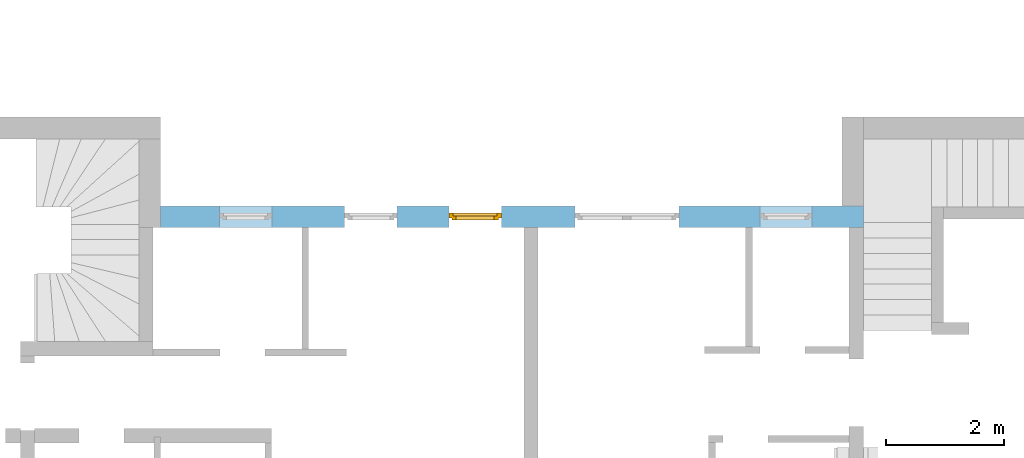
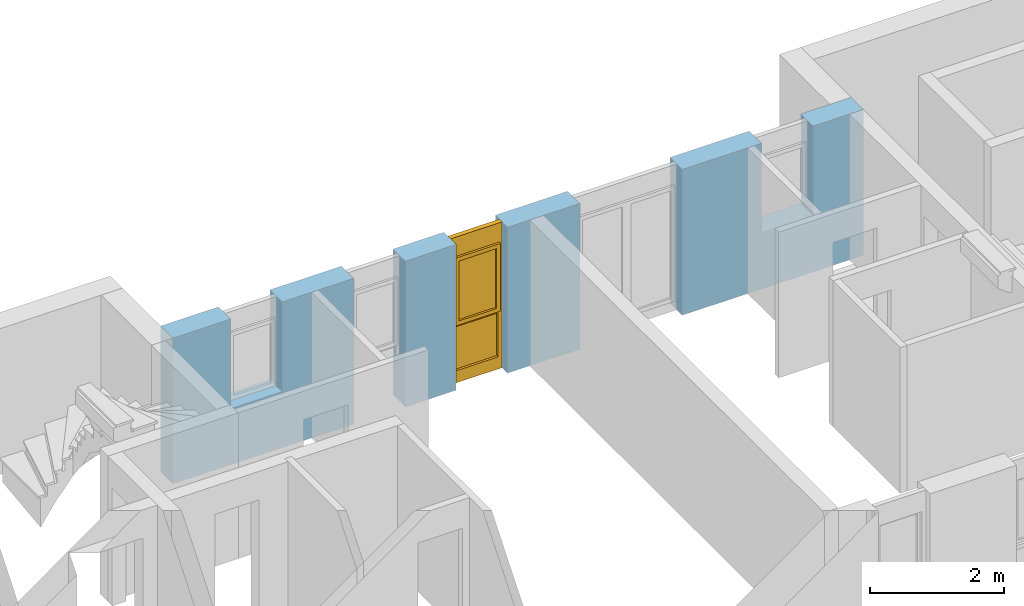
# One storey, part 34 of 42: 1 window, 5 openings, plus 1 element that does not belong to this part.
"""IFC2X3 building model written with IfcOpenShell, lengths in millimetres."""

from ifc_helpers import new_model, entity, si_unit, converted_unit, frame, frame_2d, origin, origin_with_axes, place, context, subcontext, project, spatial, rectangle, extrude, faceted_brep, material, layer, layer_set, layer_usage, type_object, element, fill, save


model = new_model("IFC2X3")

# Units and contexts
model_context = context("Model", 3, precision=1e-05, world=origin())
body_context = subcontext(model_context, "Body", "Model", "MODEL_VIEW")
ifc_project = project(units=[si_unit("LENGTHUNIT", "METRE", prefix="MILLI"), converted_unit("PLANEANGLEUNIT", "DEGREE", entity("IfcPlaneAngleMeasure", 0.0174532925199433), si_unit("PLANEANGLEUNIT", "RADIAN"), dimensions=[0, 0, 0, 0, 0, 0, 0]), si_unit("AREAUNIT", "SQUARE_METRE"), si_unit("VOLUMEUNIT", "CUBIC_METRE")], contexts=[model_context])

# Building, storey
building_placement = place(None, origin())
building = spatial("IfcBuilding", under=ifc_project, at=building_placement, Name="Gebäude", CompositionType="ELEMENT")
storey_placement = place(building_placement, frame((0.0, 0.0, 2730.0), z_axis=(0.0, 0.0, 1.0), x_axis=(1.0, 0.0, 0.0)))
storey = spatial("IfcBuildingStorey", under=building, at=storey_placement, Name="OG.- Grundriss", CompositionType="ELEMENT", Elevation=2730.0)

# Wall, openings, window
ifc_material_1 = material(Name="Poroton")
ifc_layer = layer(ifc_material_1, 365.0000000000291)
ifc_layer_set = layer_set([ifc_layer])
ifc_layer_usage = layer_usage(ifc_layer_set, "AXIS2", "POSITIVE", 0.0)
wall_placement = place(storey_placement, frame((176237.7928067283, 134774.8877324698, 0.0), z_axis=(0.0, 0.0, 1.0), x_axis=(-1.0, 0.0, 0.0)))
wall = element("IfcWallStandardCase", 1, at=wall_placement, inside=storey, material=ifc_layer_usage, Name="<Unnamed Element>", context=body_context, shape_type="SweptSolid", body=[
    extrude(rectangle(XDim=11869.99999999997, YDim=365.0000000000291, at=frame_2d((5934.999999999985, 182.5000000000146), x_axis=(1.0, 0.0))), origin_with_axes(), (0.0, 0.0, 1.0), 2650.0),
])
opening_1_placement = place(wall_placement, frame((7875.000000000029, 0.0, 0.0), z_axis=(0.0, 1.0, 0.0), x_axis=(0.0, 0.0, 1.0)))
element("IfcOpeningElement", 2, at=opening_1_placement, cuts=wall, Name="Fensteröffnung", ObjectType="Opening", context=body_context, shape_type="SweptSolid", body=[
    extrude(rectangle(XDim=2650.0, YDim=885.0, at=frame_2d((1325.0, 442.5), x_axis=(1.0, 0.0))), origin_with_axes(), (0.0, 0.0, 1.0), 365.0000000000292),
])
opening_2_placement = place(wall_placement, frame((6115.000000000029, 0.0, 0.0), z_axis=(0.0, 1.0, 0.0), x_axis=(0.0, 0.0, 1.0)))
opening_2 = element("IfcOpeningElement", 3, at=opening_2_placement, cuts=wall, Name="Fensteröffnung", ObjectType="Opening", context=body_context, shape_type="SweptSolid", body=[
    extrude(rectangle(XDim=2650.0, YDim=885.0, at=frame_2d((1325.0, 442.5), x_axis=(1.0, 0.0))), origin_with_axes(), (0.0, 0.0, 1.0), 365.0000000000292),
])
opening_3_placement = place(wall_placement, frame((9990.00000000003, 0.0, 1020.0), z_axis=(0.0, 1.0, 0.0), x_axis=(0.0, 0.0, 1.0)))
element("IfcOpeningElement", 4, at=opening_3_placement, cuts=wall, Name="Fensteröffnung", ObjectType="Opening", context=body_context, shape_type="SweptSolid", body=[
    extrude(rectangle(XDim=1630.0, YDim=885.0, at=frame_2d((815.0, 442.5), x_axis=(1.0, 0.0))), origin_with_axes(), (0.0, 0.0, 1.0), 365.0000000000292),
])
opening_4_placement = place(wall_placement, frame((3115.000000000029, 0.0, 0.0), z_axis=(0.0, 1.0, 0.0), x_axis=(0.0, 0.0, 1.0)))
element("IfcOpeningElement", 5, at=opening_4_placement, cuts=wall, Name="Fensteröffnung", ObjectType="Opening", context=body_context, shape_type="SweptSolid", body=[
    extrude(rectangle(XDim=2650.0, YDim=1760.0, at=frame_2d((1325.0, 880.0), x_axis=(1.0, 0.0))), origin_with_axes(), (0.0, 0.0, 1.0), 365.0000000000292),
])
opening_5_placement = place(wall_placement, frame((865.0000000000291, 0.0, 1020.0), z_axis=(0.0, 1.0, 0.0), x_axis=(0.0, 0.0, 1.0)))
element("IfcOpeningElement", 6, at=opening_5_placement, cuts=wall, Name="Fensteröffnung", ObjectType="Opening", context=body_context, shape_type="SweptSolid", body=[
    extrude(rectangle(XDim=1630.0, YDim=885.0, at=frame_2d((815.0, 442.5), x_axis=(1.0, 0.0))), origin_with_axes(), (0.0, 0.0, 1.0), 365.0000000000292),
])
ifc_material_2 = material()
window_style = type_object("IfcWindowStyle", Name="Fenster", ConstructionType="NOTDEFINED", OperationType="USERDEFINED", ParameterTakesPrecedence=False, Sizeable=False)
window_placement = place(opening_2_placement, frame((0.0, 0.0, 0.0), z_axis=(1.0, 0.0, 0.0), x_axis=(0.0, 1.0, 0.0)))
window = element("IfcWindow", 7, at=window_placement, inside=storey, type_object=window_style, material=ifc_material_2, Name="Fenster", OverallHeight=2650.0, OverallWidth=885.0, context=body_context, shape_type="Brep", body=[
    faceted_brep([(9.797174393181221e-15, 200.0000000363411, 2650.0), (9.797174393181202e-15, 200.000000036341, -2.449293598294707e-15), (69.99999999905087, 200.000000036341, -2.449293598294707e-15), (69.99999999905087, 200.0000000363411, 2650.0), (0.0, 120.0000000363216, 2.449293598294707e-15), (1.914360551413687e-29, 120.0000000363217, 2650.0), (69.99999999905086, 120.0000000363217, 2650.0), (69.99999999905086, 120.0000000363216, 2.449293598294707e-15), (9.797174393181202e-15, 200.000000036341, -2.449293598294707e-15), (9.797174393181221e-15, 200.0000000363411, 2650.0), (1.914360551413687e-29, 120.0000000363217, 2650.0), (0.0, 120.0000000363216, 2.449293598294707e-15), (69.99999999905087, 200.000000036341, -2.449293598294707e-15), (9.797174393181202e-15, 200.000000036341, -2.449293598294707e-15), (0.0, 120.0000000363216, 2.449293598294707e-15), (69.99999999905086, 120.0000000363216, 2.449293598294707e-15), (69.99999999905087, 200.0000000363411, 2650.0), (69.99999999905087, 200.000000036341, -2.449293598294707e-15), (69.99999999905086, 120.0000000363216, 2.449293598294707e-15), (69.99999999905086, 120.0000000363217, 2650.0), (9.797174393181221e-15, 200.0000000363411, 2650.0), (69.99999999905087, 200.0000000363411, 2650.0), (69.99999999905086, 120.0000000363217, 2650.0), (1.914360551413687e-29, 120.0000000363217, 2650.0)], [[[0, 1, 2, 3]], [[4, 5, 6, 7]], [[8, 9, 10, 11]], [[12, 13, 14, 15]], [[16, 17, 18, 19]], [[20, 21, 22, 23]]], orient=[[False], [False], [False], [False], [False], [False]]),
    faceted_brep([(815.0000000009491, 200.000000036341, 2650.0), (815.0000000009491, 200.0000000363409, -2.449293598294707e-15), (884.9999999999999, 200.0000000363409, -2.449293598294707e-15), (884.9999999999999, 200.000000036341, 2650.0), (815.0000000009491, 120.0000000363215, 2.449293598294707e-15), (815.0000000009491, 120.0000000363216, 2650.0), (884.9999999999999, 120.0000000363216, 2650.0), (884.9999999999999, 120.0000000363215, 2.449293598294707e-15), (815.0000000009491, 200.0000000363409, -2.449293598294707e-15), (815.0000000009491, 200.000000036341, 2650.0), (815.0000000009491, 120.0000000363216, 2650.0), (815.0000000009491, 120.0000000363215, 2.449293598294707e-15), (884.9999999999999, 200.0000000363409, -2.449293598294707e-15), (815.0000000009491, 200.0000000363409, -2.449293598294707e-15), (815.0000000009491, 120.0000000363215, 2.449293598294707e-15), (884.9999999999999, 120.0000000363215, 2.449293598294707e-15), (884.9999999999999, 200.000000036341, 2650.0), (884.9999999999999, 200.0000000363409, -2.449293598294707e-15), (884.9999999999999, 120.0000000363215, 2.449293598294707e-15), (884.9999999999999, 120.0000000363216, 2650.0), (815.0000000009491, 200.000000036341, 2650.0), (884.9999999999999, 200.000000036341, 2650.0), (884.9999999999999, 120.0000000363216, 2650.0), (815.0000000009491, 120.0000000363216, 2650.0)], [[[0, 1, 2, 3]], [[4, 5, 6, 7]], [[8, 9, 10, 11]], [[12, 13, 14, 15]], [[16, 17, 18, 19]], [[20, 21, 22, 23]]], orient=[[False], [False], [False], [False], [False], [False]]),
    faceted_brep([(69.99999999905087, 200.000000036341, 220.0), (69.99999999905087, 200.000000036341, -2.449293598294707e-15), (815.0000000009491, 200.0000000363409, -2.449293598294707e-15), (815.0000000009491, 200.0000000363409, 220.0), (69.99999999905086, 120.0000000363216, 2.449293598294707e-15), (69.99999999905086, 120.0000000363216, 220.0), (815.0000000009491, 120.0000000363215, 220.0), (815.0000000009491, 120.0000000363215, 2.449293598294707e-15), (69.99999999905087, 200.000000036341, -2.449293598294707e-15), (69.99999999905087, 200.000000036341, 220.0), (69.99999999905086, 120.0000000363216, 220.0), (69.99999999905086, 120.0000000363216, 2.449293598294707e-15), (815.0000000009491, 200.0000000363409, -2.449293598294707e-15), (69.99999999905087, 200.000000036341, -2.449293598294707e-15), (69.99999999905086, 120.0000000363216, 2.449293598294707e-15), (815.0000000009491, 120.0000000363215, 2.449293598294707e-15), (815.0000000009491, 200.0000000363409, 220.0), (815.0000000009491, 200.0000000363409, -2.449293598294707e-15), (815.0000000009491, 120.0000000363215, 2.449293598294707e-15), (815.0000000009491, 120.0000000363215, 220.0), (69.99999999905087, 200.000000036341, 220.0), (815.0000000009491, 200.0000000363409, 220.0), (815.0000000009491, 120.0000000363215, 220.0), (69.99999999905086, 120.0000000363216, 220.0)], [[[0, 1, 2, 3]], [[4, 5, 6, 7]], [[8, 9, 10, 11]], [[12, 13, 14, 15]], [[16, 17, 18, 19]], [[20, 21, 22, 23]]], orient=[[False], [False], [False], [False], [False], [False]]),
    faceted_brep([(69.99999999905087, 200.0000000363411, 2650.0), (69.99999999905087, 200.0000000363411, 2280.0), (815.0000000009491, 200.000000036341, 2280.0), (815.0000000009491, 200.0000000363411, 2650.0), (69.99999999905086, 120.0000000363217, 2280.0), (69.99999999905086, 120.0000000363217, 2650.0), (815.0000000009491, 120.0000000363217, 2650.0), (815.0000000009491, 120.0000000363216, 2280.0), (69.99999999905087, 200.0000000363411, 2280.0), (69.99999999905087, 200.0000000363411, 2650.0), (69.99999999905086, 120.0000000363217, 2650.0), (69.99999999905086, 120.0000000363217, 2280.0), (815.0000000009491, 200.000000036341, 2280.0), (69.99999999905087, 200.0000000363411, 2280.0), (69.99999999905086, 120.0000000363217, 2280.0), (815.0000000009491, 120.0000000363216, 2280.0), (815.0000000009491, 200.0000000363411, 2650.0), (815.0000000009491, 200.000000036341, 2280.0), (815.0000000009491, 120.0000000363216, 2280.0), (815.0000000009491, 120.0000000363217, 2650.0), (69.99999999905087, 200.0000000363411, 2650.0), (815.0000000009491, 200.0000000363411, 2650.0), (815.0000000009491, 120.0000000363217, 2650.0), (69.99999999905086, 120.0000000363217, 2650.0)], [[[0, 1, 2, 3]], [[4, 5, 6, 7]], [[8, 9, 10, 11]], [[12, 13, 14, 15]], [[16, 17, 18, 19]], [[20, 21, 22, 23]]], orient=[[False], [False], [False], [False], [False], [False]]),
    faceted_brep([(69.99999999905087, 200.000000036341, 1090.0), (69.99999999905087, 200.000000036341, 1020.0), (815.0000000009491, 200.0000000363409, 1020.0), (815.0000000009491, 200.0000000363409, 1090.0), (69.99999999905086, 120.0000000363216, 1020.0), (69.99999999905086, 120.0000000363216, 1090.0), (815.0000000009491, 120.0000000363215, 1090.0), (815.0000000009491, 120.0000000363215, 1020.0), (69.99999999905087, 200.000000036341, 1020.0), (69.99999999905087, 200.000000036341, 1090.0), (69.99999999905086, 120.0000000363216, 1090.0), (69.99999999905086, 120.0000000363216, 1020.0), (815.0000000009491, 200.0000000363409, 1020.0), (69.99999999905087, 200.000000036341, 1020.0), (69.99999999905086, 120.0000000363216, 1020.0), (815.0000000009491, 120.0000000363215, 1020.0), (815.0000000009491, 200.0000000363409, 1090.0), (815.0000000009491, 200.0000000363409, 1020.0), (815.0000000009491, 120.0000000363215, 1020.0), (815.0000000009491, 120.0000000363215, 1090.0), (69.99999999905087, 200.000000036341, 1090.0), (815.0000000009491, 200.0000000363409, 1090.0), (815.0000000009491, 120.0000000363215, 1090.0), (69.99999999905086, 120.0000000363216, 1090.0)], [[[0, 1, 2, 3]], [[4, 5, 6, 7]], [[8, 9, 10, 11]], [[12, 13, 14, 15]], [[16, 17, 18, 19]], [[20, 21, 22, 23]]], orient=[[False], [False], [False], [False], [False], [False]]),
    faceted_brep([(69.99999999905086, 160.0000000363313, 220.0), (815.0000000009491, 160.0000000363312, 220.0), (815.0000000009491, 160.0000000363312, 1020.0), (69.99999999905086, 160.0000000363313, 1020.0), (69.99999999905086, 159.0000000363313, 220.0), (69.99999999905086, 159.0000000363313, 1020.0), (815.0000000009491, 159.0000000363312, 1020.0), (815.0000000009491, 159.0000000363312, 220.0), (69.99999999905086, 160.0000000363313, 220.0), (69.99999999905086, 159.0000000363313, 220.0), (815.0000000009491, 159.0000000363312, 220.0), (815.0000000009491, 160.0000000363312, 220.0), (815.0000000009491, 160.0000000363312, 220.0), (815.0000000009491, 159.0000000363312, 220.0), (815.0000000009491, 159.0000000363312, 1020.0), (815.0000000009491, 160.0000000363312, 1020.0), (815.0000000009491, 160.0000000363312, 1020.0), (815.0000000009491, 159.0000000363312, 1020.0), (69.99999999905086, 159.0000000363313, 1020.0), (69.99999999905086, 160.0000000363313, 1020.0), (69.99999999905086, 160.0000000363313, 1020.0), (69.99999999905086, 159.0000000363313, 1020.0), (69.99999999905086, 159.0000000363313, 220.0), (69.99999999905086, 160.0000000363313, 220.0)], [[[0, 1, 2, 3]], [[4, 5, 6, 7]], [[8, 9, 10, 11]], [[12, 13, 14, 15]], [[16, 17, 18, 19]], [[20, 21, 22, 23]]], orient=[[False], [False], [False], [False], [False], [False]]),
    faceted_brep([(49.99999999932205, 240.0000000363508, 2300.0), (49.99999999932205, 240.0000000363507, 1070.0), (119.9999999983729, 240.0000000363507, 1070.0), (119.9999999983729, 240.0000000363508, 2300.0), (49.99999999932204, 170.0000000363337, 1070.0), (49.99999999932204, 170.0000000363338, 2300.0), (119.9999999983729, 170.0000000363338, 2300.0), (119.9999999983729, 170.0000000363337, 1070.0), (49.99999999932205, 240.0000000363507, 1070.0), (49.99999999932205, 240.0000000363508, 2300.0), (49.99999999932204, 170.0000000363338, 2300.0), (49.99999999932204, 170.0000000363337, 1070.0), (119.9999999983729, 240.0000000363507, 1070.0), (49.99999999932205, 240.0000000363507, 1070.0), (49.99999999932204, 170.0000000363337, 1070.0), (119.9999999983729, 170.0000000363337, 1070.0), (119.9999999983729, 240.0000000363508, 2300.0), (119.9999999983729, 240.0000000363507, 1070.0), (119.9999999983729, 170.0000000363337, 1070.0), (119.9999999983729, 170.0000000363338, 2300.0), (49.99999999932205, 240.0000000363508, 2300.0), (119.9999999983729, 240.0000000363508, 2300.0), (119.9999999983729, 170.0000000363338, 2300.0), (49.99999999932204, 170.0000000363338, 2300.0)], [[[0, 1, 2, 3]], [[4, 5, 6, 7]], [[8, 9, 10, 11]], [[12, 13, 14, 15]], [[16, 17, 18, 19]], [[20, 21, 22, 23]]], orient=[[False], [False], [False], [False], [False], [False]]),
    faceted_brep([(765.000000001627, 240.0000000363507, 2300.0), (765.000000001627, 240.0000000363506, 1070.0), (835.0000000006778, 240.0000000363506, 1070.0), (835.0000000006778, 240.0000000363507, 2300.0), (765.000000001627, 170.0000000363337, 1070.0), (765.000000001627, 170.0000000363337, 2300.0), (835.0000000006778, 170.0000000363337, 2300.0), (835.0000000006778, 170.0000000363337, 1070.0), (765.000000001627, 240.0000000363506, 1070.0), (765.000000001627, 240.0000000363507, 2300.0), (765.000000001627, 170.0000000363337, 2300.0), (765.000000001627, 170.0000000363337, 1070.0), (835.0000000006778, 240.0000000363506, 1070.0), (765.000000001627, 240.0000000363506, 1070.0), (765.000000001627, 170.0000000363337, 1070.0), (835.0000000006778, 170.0000000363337, 1070.0), (835.0000000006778, 240.0000000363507, 2300.0), (835.0000000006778, 240.0000000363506, 1070.0), (835.0000000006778, 170.0000000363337, 1070.0), (835.0000000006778, 170.0000000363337, 2300.0), (765.000000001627, 240.0000000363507, 2300.0), (835.0000000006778, 240.0000000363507, 2300.0), (835.0000000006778, 170.0000000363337, 2300.0), (765.000000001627, 170.0000000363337, 2300.0)], [[[0, 1, 2, 3]], [[4, 5, 6, 7]], [[8, 9, 10, 11]], [[12, 13, 14, 15]], [[16, 17, 18, 19]], [[20, 21, 22, 23]]], orient=[[False], [False], [False], [False], [False], [False]]),
    faceted_brep([(119.9999999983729, 240.0000000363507, 1140.0), (119.9999999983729, 240.0000000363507, 1070.0), (765.000000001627, 240.0000000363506, 1070.0), (765.000000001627, 240.0000000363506, 1140.0), (119.9999999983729, 170.0000000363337, 1070.0), (119.9999999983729, 170.0000000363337, 1140.0), (765.000000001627, 170.0000000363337, 1140.0), (765.000000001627, 170.0000000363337, 1070.0), (119.9999999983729, 240.0000000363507, 1070.0), (119.9999999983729, 240.0000000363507, 1140.0), (119.9999999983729, 170.0000000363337, 1140.0), (119.9999999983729, 170.0000000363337, 1070.0), (765.000000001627, 240.0000000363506, 1070.0), (119.9999999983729, 240.0000000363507, 1070.0), (119.9999999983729, 170.0000000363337, 1070.0), (765.000000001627, 170.0000000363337, 1070.0), (765.000000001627, 240.0000000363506, 1140.0), (765.000000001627, 240.0000000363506, 1070.0), (765.000000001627, 170.0000000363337, 1070.0), (765.000000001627, 170.0000000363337, 1140.0), (119.9999999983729, 240.0000000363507, 1140.0), (765.000000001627, 240.0000000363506, 1140.0), (765.000000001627, 170.0000000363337, 1140.0), (119.9999999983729, 170.0000000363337, 1140.0)], [[[0, 1, 2, 3]], [[4, 5, 6, 7]], [[8, 9, 10, 11]], [[12, 13, 14, 15]], [[16, 17, 18, 19]], [[20, 21, 22, 23]]], orient=[[False], [False], [False], [False], [False], [False]]),
    faceted_brep([(119.9999999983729, 240.0000000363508, 2300.0), (119.9999999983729, 240.0000000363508, 2230.0), (765.000000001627, 240.0000000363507, 2230.0), (765.000000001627, 240.0000000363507, 2300.0), (119.9999999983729, 170.0000000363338, 2230.0), (119.9999999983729, 170.0000000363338, 2300.0), (765.000000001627, 170.0000000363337, 2300.0), (765.000000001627, 170.0000000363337, 2230.0), (119.9999999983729, 240.0000000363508, 2230.0), (119.9999999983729, 240.0000000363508, 2300.0), (119.9999999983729, 170.0000000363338, 2300.0), (119.9999999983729, 170.0000000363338, 2230.0), (765.000000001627, 240.0000000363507, 2230.0), (119.9999999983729, 240.0000000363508, 2230.0), (119.9999999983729, 170.0000000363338, 2230.0), (765.000000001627, 170.0000000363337, 2230.0), (765.000000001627, 240.0000000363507, 2300.0), (765.000000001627, 240.0000000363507, 2230.0), (765.000000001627, 170.0000000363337, 2230.0), (765.000000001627, 170.0000000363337, 2300.0), (119.9999999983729, 240.0000000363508, 2300.0), (765.000000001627, 240.0000000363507, 2300.0), (765.000000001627, 170.0000000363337, 2300.0), (119.9999999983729, 170.0000000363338, 2300.0)], [[[0, 1, 2, 3]], [[4, 5, 6, 7]], [[8, 9, 10, 11]], [[12, 13, 14, 15]], [[16, 17, 18, 19]], [[20, 21, 22, 23]]], orient=[[False], [False], [False], [False], [False], [False]]),
    faceted_brep([(119.9999999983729, 205.0000000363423, 1140.0), (765.000000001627, 205.0000000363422, 1140.0), (765.000000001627, 205.0000000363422, 2230.0), (119.9999999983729, 205.0000000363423, 2230.0), (119.9999999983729, 204.0000000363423, 1140.0), (119.9999999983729, 204.0000000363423, 2230.0), (765.000000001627, 204.0000000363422, 2230.0), (765.000000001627, 204.0000000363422, 1140.0), (119.9999999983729, 205.0000000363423, 1140.0), (119.9999999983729, 204.0000000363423, 1140.0), (765.000000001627, 204.0000000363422, 1140.0), (765.000000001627, 205.0000000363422, 1140.0), (765.000000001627, 205.0000000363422, 1140.0), (765.000000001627, 204.0000000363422, 1140.0), (765.000000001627, 204.0000000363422, 2230.0), (765.000000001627, 205.0000000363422, 2230.0), (765.000000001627, 205.0000000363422, 2230.0), (765.000000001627, 204.0000000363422, 2230.0), (119.9999999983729, 204.0000000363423, 2230.0), (119.9999999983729, 205.0000000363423, 2230.0), (119.9999999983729, 205.0000000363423, 2230.0), (119.9999999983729, 204.0000000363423, 2230.0), (119.9999999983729, 204.0000000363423, 1140.0), (119.9999999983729, 205.0000000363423, 1140.0)], [[[0, 1, 2, 3]], [[4, 5, 6, 7]], [[8, 9, 10, 11]], [[12, 13, 14, 15]], [[16, 17, 18, 19]], [[20, 21, 22, 23]]], orient=[[False], [False], [False], [False], [False], [False]]),
])
fill(opening_2, window)

save(model, "model.ifc")
